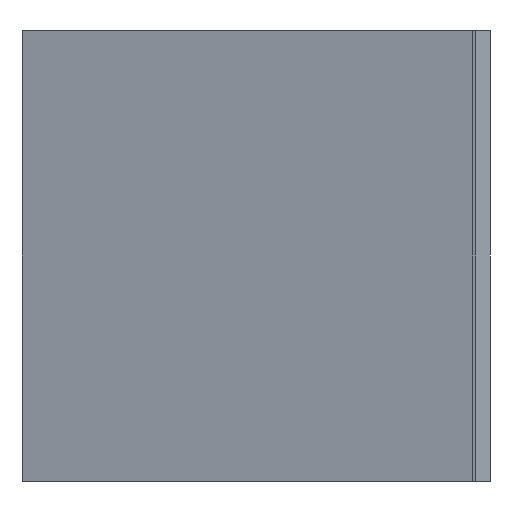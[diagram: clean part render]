
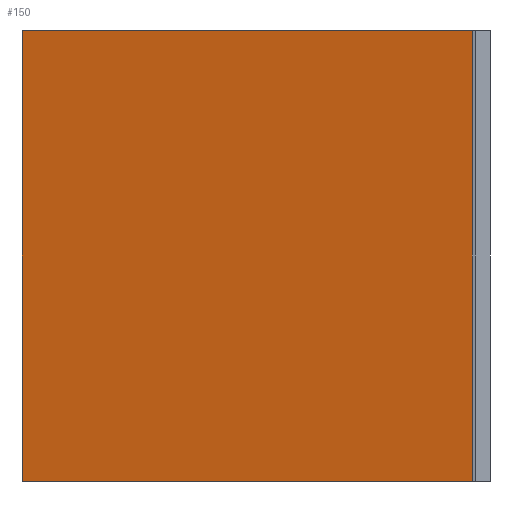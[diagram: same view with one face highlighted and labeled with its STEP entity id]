
A CAD part, left-side view. The second image highlights one B-rep face of the part: STEP entity #150.
In plain terms, the highlighted planar face has unit normal (0.97, -0.242, 0).
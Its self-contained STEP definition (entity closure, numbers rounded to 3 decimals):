
#98=CARTESIAN_POINT('Vertex',(20.,0.,0.)) ;
#101=CARTESIAN_POINT('Line Origine',(20.,0.,64.)) ;
#105=CARTESIAN_POINT('Vertex',(20.,0.,128.)) ;
#120=CARTESIAN_POINT('Axis2P3D Location',(20.,0.,0.)) ;
#125=CARTESIAN_POINT('Line Origine',(36.,64.,0.)) ;
#129=CARTESIAN_POINT('Vertex',(52.,128.,0.)) ;
#132=CARTESIAN_POINT('Line Origine',(52.,128.,64.)) ;
#136=CARTESIAN_POINT('Vertex',(52.,128.,128.)) ;
#139=CARTESIAN_POINT('Line Origine',(36.,64.,128.)) ;
#102=DIRECTION('Vector Direction',(0.,0.,1.)) ;
#121=DIRECTION('Axis2P3D Direction',(0.97,-0.243,0.)) ;
#122=DIRECTION('Axis2P3D XDirection',(0.243,0.97,0.)) ;
#126=DIRECTION('Vector Direction',(0.243,0.97,0.)) ;
#133=DIRECTION('Vector Direction',(0.,0.,1.)) ;
#140=DIRECTION('Vector Direction',(0.243,0.97,0.)) ;
#123=AXIS2_PLACEMENT_3D('Plane Axis2P3D',#120,#121,#122) ;
#145=ORIENTED_EDGE('',*,*,#107,.F.) ;
#146=ORIENTED_EDGE('',*,*,#131,.T.) ;
#147=ORIENTED_EDGE('',*,*,#138,.T.) ;
#148=ORIENTED_EDGE('',*,*,#143,.F.) ;
#103=VECTOR('Line Direction',#102,1.) ;
#127=VECTOR('Line Direction',#126,1.) ;
#134=VECTOR('Line Direction',#133,1.) ;
#141=VECTOR('Line Direction',#140,1.) ;
#150=ADVANCED_FACE('Extrude.1',(#149),#124,.T.) ;
#107=EDGE_CURVE('',#99,#106,#104,.T.) ;
#131=EDGE_CURVE('',#99,#130,#128,.T.) ;
#138=EDGE_CURVE('',#130,#137,#135,.T.) ;
#143=EDGE_CURVE('',#106,#137,#142,.T.) ;
#144=EDGE_LOOP('',(#145,#146,#147,#148)) ;
#149=FACE_OUTER_BOUND('',#144,.T.) ;
#104=LINE('Line',#101,#103) ;
#128=LINE('Line',#125,#127) ;
#135=LINE('Line',#132,#134) ;
#142=LINE('Line',#139,#141) ;
#124=PLANE('',#123) ;
#99=VERTEX_POINT('',#98) ;
#106=VERTEX_POINT('',#105) ;
#130=VERTEX_POINT('',#129) ;
#137=VERTEX_POINT('',#136) ;
